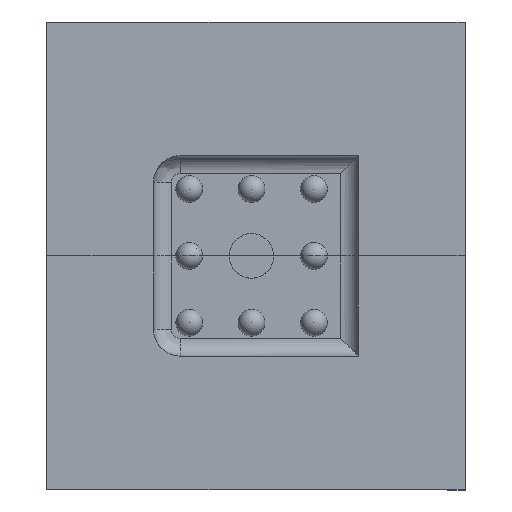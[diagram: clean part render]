
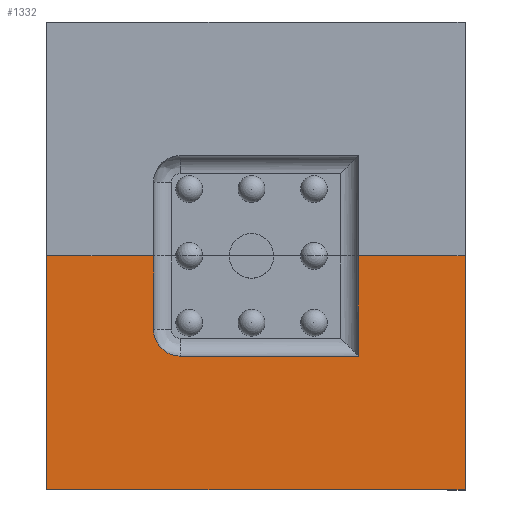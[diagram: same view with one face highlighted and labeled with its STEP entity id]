
A CAD part, top view. The second image highlights one B-rep face of the part: STEP entity #1332.
In plain terms, the highlighted planar face has unit normal (0, 0, 1).
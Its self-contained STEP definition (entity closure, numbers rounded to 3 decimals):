
#104=FACE_OUTER_BOUND('',#179,.T.);
#179=EDGE_LOOP('',(#1055,#1056,#1057,#1058,#1059,#1060,#1061,#1062,#1063,
#1064,#1065,#1066));
#232=CIRCLE('',#1431,3.);
#282=LINE('',#1953,#419);
#317=LINE('',#2038,#454);
#318=LINE('',#2041,#455);
#320=LINE('',#2045,#457);
#322=LINE('',#2048,#459);
#323=LINE('',#2052,#460);
#330=LINE('',#2082,#467);
#332=LINE('',#2086,#469);
#335=LINE('',#2094,#472);
#341=LINE('',#2131,#478);
#342=LINE('',#2133,#479);
#419=VECTOR('',#1544,10.);
#454=VECTOR('',#1617,10.);
#455=VECTOR('',#1620,10.);
#457=VECTOR('',#1624,10.);
#459=VECTOR('',#1628,10.);
#460=VECTOR('',#1631,10.);
#467=VECTOR('',#1656,10.);
#469=VECTOR('',#1660,10.);
#472=VECTOR('',#1669,10.);
#478=VECTOR('',#1721,10.);
#479=VECTOR('',#1724,10.);
#558=VERTEX_POINT('',#1950);
#559=VERTEX_POINT('',#1952);
#589=VERTEX_POINT('',#2034);
#590=VERTEX_POINT('',#2036);
#591=VERTEX_POINT('',#2040);
#592=VERTEX_POINT('',#2044);
#593=VERTEX_POINT('',#2050);
#594=VERTEX_POINT('',#2051);
#599=VERTEX_POINT('',#2080);
#600=VERTEX_POINT('',#2084);
#601=VERTEX_POINT('',#2088);
#602=VERTEX_POINT('',#2092);
#689=EDGE_CURVE('',#558,#559,#282,.T.);
#733=EDGE_CURVE('',#589,#590,#317,.T.);
#734=EDGE_CURVE('',#591,#590,#318,.T.);
#736=EDGE_CURVE('',#559,#592,#320,.T.);
#738=EDGE_CURVE('',#592,#591,#322,.T.);
#739=EDGE_CURVE('',#593,#594,#323,.T.);
#751=EDGE_CURVE('',#599,#558,#330,.T.);
#753=EDGE_CURVE('',#600,#599,#332,.T.);
#755=EDGE_CURVE('',#601,#600,#232,.T.);
#757=EDGE_CURVE('',#602,#601,#335,.T.);
#773=EDGE_CURVE('',#602,#594,#341,.T.);
#774=EDGE_CURVE('',#589,#593,#342,.T.);
#1055=ORIENTED_EDGE('',*,*,#757,.F.);
#1056=ORIENTED_EDGE('',*,*,#773,.T.);
#1057=ORIENTED_EDGE('',*,*,#739,.F.);
#1058=ORIENTED_EDGE('',*,*,#774,.F.);
#1059=ORIENTED_EDGE('',*,*,#733,.T.);
#1060=ORIENTED_EDGE('',*,*,#734,.F.);
#1061=ORIENTED_EDGE('',*,*,#738,.F.);
#1062=ORIENTED_EDGE('',*,*,#736,.F.);
#1063=ORIENTED_EDGE('',*,*,#689,.F.);
#1064=ORIENTED_EDGE('',*,*,#751,.F.);
#1065=ORIENTED_EDGE('',*,*,#753,.F.);
#1066=ORIENTED_EDGE('',*,*,#755,.F.);
#1276=PLANE('',#1457);
#1332=ADVANCED_FACE('',(#104),#1276,.T.);
#1431=AXIS2_PLACEMENT_3D('',#2090,#1664,#1665);
#1457=AXIS2_PLACEMENT_3D('',#2134,#1725,#1726);
#1544=DIRECTION('',(1.,0.,0.));
#1617=DIRECTION('',(1.,0.,0.));
#1620=DIRECTION('',(0.,-1.,0.));
#1624=DIRECTION('',(1.,0.,0.));
#1628=DIRECTION('',(0.,-1.,0.));
#1631=DIRECTION('',(0.,1.,0.));
#1656=DIRECTION('',(0.,1.,0.));
#1660=DIRECTION('',(1.,0.,0.));
#1664=DIRECTION('center_axis',(0.,0.,
1.));
#1665=DIRECTION('ref_axis',(-1.,0.,0.));
#1669=DIRECTION('',(0.,-1.,0.));
#1721=DIRECTION('',(-1.,0.,0.));
#1724=DIRECTION('',(-1.,0.,0.));
#1725=DIRECTION('center_axis',(0.,0.,1.));
#1726=DIRECTION('ref_axis',(1.,0.,0.));
#1950=CARTESIAN_POINT('',(12.,-20.5,-143.));
#1952=CARTESIAN_POINT('',(22.,-20.5,-143.));
#1953=CARTESIAN_POINT('',(12.,-20.5,-143.));
#2034=CARTESIAN_POINT('',(22.,-46.75,-143.));
#2036=CARTESIAN_POINT('',(24.,-46.75,-143.));
#2038=CARTESIAN_POINT('',(22.,-46.75,-143.));
#2040=CARTESIAN_POINT('',(24.,-31.75,-143.));
#2041=CARTESIAN_POINT('',(24.,-31.75,-143.));
#2044=CARTESIAN_POINT('',(24.,-20.5,-143.));
#2045=CARTESIAN_POINT('',(22.,-20.5,-143.));
#2048=CARTESIAN_POINT('',(24.,-9.25,-143.));
#2050=CARTESIAN_POINT('',(-23.,-46.75,-143.));
#2051=CARTESIAN_POINT('',(-23.,-20.5,-143.));
#2052=CARTESIAN_POINT('',(-23.,-46.75,-143.));
#2080=CARTESIAN_POINT('',(12.,-31.75,-143.));
#2082=CARTESIAN_POINT('',(12.,-31.75,-143.));
#2084=CARTESIAN_POINT('',(-8.,-31.75,-143.));
#2086=CARTESIAN_POINT('',(-8.,-31.75,-143.));
#2088=CARTESIAN_POINT('',(-11.,-28.75,-143.));
#2090=CARTESIAN_POINT('Origin',(-8.,-28.75,-143.));
#2092=CARTESIAN_POINT('',(-11.,-20.5,-143.));
#2094=CARTESIAN_POINT('',(-11.,-20.5,-143.));
#2131=CARTESIAN_POINT('',(-11.,-20.5,-143.));
#2133=CARTESIAN_POINT('',(-11.,-46.75,-143.));
#2134=CARTESIAN_POINT('Origin',(0.5,-20.5,-143.));
